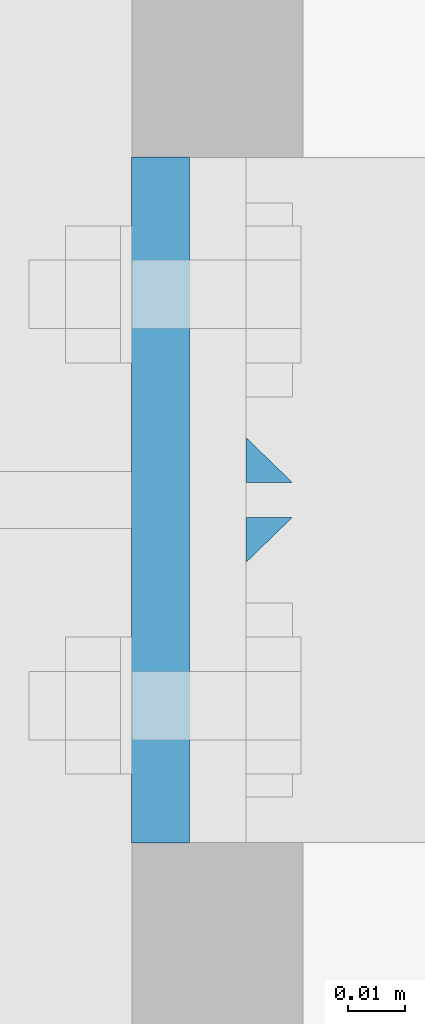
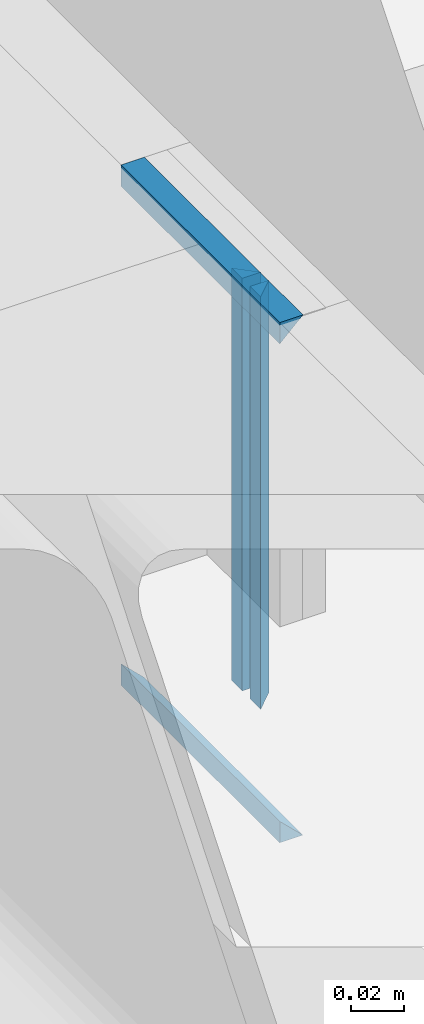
# One storey, part 12 of 66: 6 fasteners.
"""IFC4 building model written with IfcOpenShell, lengths in metres."""

from ifc_helpers import new_model, si_unit, frame, origin_with_axes, place, context, project, spatial, polyline, outline, extrude, type_object, element, save


model = new_model("IFC4")

# Units and contexts
model_context = context("Model", 3, precision=1e-05, world=origin_with_axes())
ifc_project = project(units=[si_unit("LENGTHUNIT", "METRE"), si_unit("AREAUNIT", "SQUARE_METRE"), si_unit("VOLUMEUNIT", "CUBIC_METRE"), si_unit("MASSUNIT", "GRAM", prefix="KILO"), si_unit("TIMEUNIT", "SECOND"), si_unit("PLANEANGLEUNIT", "RADIAN"), si_unit("SOLIDANGLEUNIT", "STERADIAN"), si_unit("THERMODYNAMICTEMPERATUREUNIT", "DEGREE_CELSIUS")], contexts=[model_context])

# Site, building, storey
placement_1 = place(None, origin_with_axes())
site = spatial("IfcSite", under=ifc_project, at=placement_1, Name="Italia", CompositionType="ELEMENT")
building = spatial("IfcBuilding", under=site, at=placement_1, Name="Uffici", CompositionType="ELEMENT")
storey_placement = place(None, frame((0.0, 0.0, 3.299999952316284), z_axis=(0.0, 0.0, 1.0), x_axis=(1.0, 0.0, 0.0)))
storey = spatial("IfcBuildingStorey", under=building, at=storey_placement, Name="Storey 1", CompositionType="ELEMENT", Elevation=3.299999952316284)

# Fasteners
fastener_type_1 = type_object("IfcFastenerType", Name="Collegamento -011_-012", PredefinedType="WELD")
placement_2 = place(placement_1, origin_with_axes())
fastener_1_placement = place(placement_2, origin_with_axes())
element("IfcFastener", 1, at=fastener_1_placement, inside=storey, type_object=fastener_type_1, Name="Collegamento -011_-012", context=model_context, shape_type="SweptSolid", body=[
    extrude(outline(polyline([(0.0, 0.0), (0.00792813, 0.00817336), (0.00792813, 0.0), (0.0, 0.0)])), frame((0.13995, 3.58236, 3.27525), z_axis=(0.0, 0.0, -1.0), x_axis=(0.0, 1.0, 0.0)), (0.0, 0.0, 1.0), 0.1905),
])
fastener_type_2 = type_object("IfcFastenerType", Name="Collegamento -011_-012", PredefinedType="WELD")
fastener_2_placement = place(placement_2, origin_with_axes())
element("IfcFastener", 2, at=fastener_2_placement, inside=storey, type_object=fastener_type_2, Name="Collegamento -011_-012", context=model_context, shape_type="SweptSolid", body=[
    extrude(outline(polyline([(0.0, 0.0), (-0.00792813, -0.00817336), (-0.00792813, 0.0), (0.0, 0.0)])), frame((0.13995, 3.60431, 3.08475), z_axis=(0.0, 0.0, 1.0), x_axis=(0.0, 1.0, 0.0)), (0.0, 0.0, 1.0), 0.1905),
])
fastener_type_3 = type_object("IfcFastenerType", Name="Collegamento -011_-012", PredefinedType="WELD")
fastener_3_placement = place(placement_2, origin_with_axes())
element("IfcFastener", 3, at=fastener_3_placement, inside=storey, type_object=fastener_type_3, Name="Collegamento -011_-012", context=model_context, shape_type="SweptSolid", body=[
    extrude(outline(polyline([(0.0, 0.0), (0.00792813, 0.00817336), (0.00792813, 0.0), (0.0, 0.0)])), frame((0.13995, 3.58236, 3.27525), z_axis=(0.0, 0.0, -1.0), x_axis=(0.0, 1.0, 0.0)), (0.0, 0.0, 1.0), 0.1905),
])
fastener_type_4 = type_object("IfcFastenerType", Name="Collegamento -011_-012", PredefinedType="WELD")
fastener_4_placement = place(placement_2, origin_with_axes())
element("IfcFastener", 4, at=fastener_4_placement, inside=storey, type_object=fastener_type_4, Name="Collegamento -011_-012", context=model_context, shape_type="SweptSolid", body=[
    extrude(outline(polyline([(0.0, 0.0), (-0.00792813, -0.00817336), (-0.00792813, 0.0), (0.0, 0.0)])), frame((0.13995, 3.60431, 3.08475), z_axis=(0.0, 0.0, 1.0), x_axis=(0.0, 1.0, 0.0)), (0.0, 0.0, 1.0), 0.1905),
])
fastener_type_5 = type_object("IfcFastenerType", Name="Collegamento -011_-012", PredefinedType="WELD")
fastener_5_placement = place(placement_2, origin_with_axes())
element("IfcFastener", 5, at=fastener_5_placement, inside=storey, type_object=fastener_type_5, Name="Collegamento -011_-012", context=model_context, shape_type="SweptSolid", body=[
    extrude(outline(polyline([(0.0, 0.0), (0.0101734, -0.00986814), (0.0, -0.00986814), (0.0, 0.0)])), frame((0.11995, 3.65338, 3.06982), z_axis=(0.0, -1.0, 0.0), x_axis=(1.0, 0.0, 0.0)), (0.0, 0.0, 1.0), 0.1201),
])
fastener_type_6 = type_object("IfcFastenerType", Name="Collegamento -011_-012", PredefinedType="WELD")
fastener_6_placement = place(placement_2, origin_with_axes())
element("IfcFastener", 6, at=fastener_6_placement, inside=storey, type_object=fastener_type_6, Name="Collegamento -011_-012", context=model_context, shape_type="SweptSolid", body=[
    extrude(outline(polyline([(0.0, 0.0), (-0.0101734, 0.00986814), (0.0, 0.00986814), (0.0, 0.0)])), frame((0.11995, 3.53328, 3.29018), z_axis=(0.0, 1.0, 0.0), x_axis=(-1.0, 0.0, 0.0)), (0.0, 0.0, 1.0), 0.1201),
])

save(model, "model.ifc")
